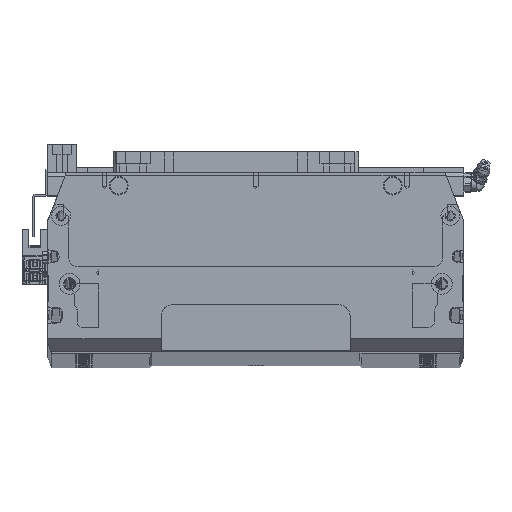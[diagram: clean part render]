
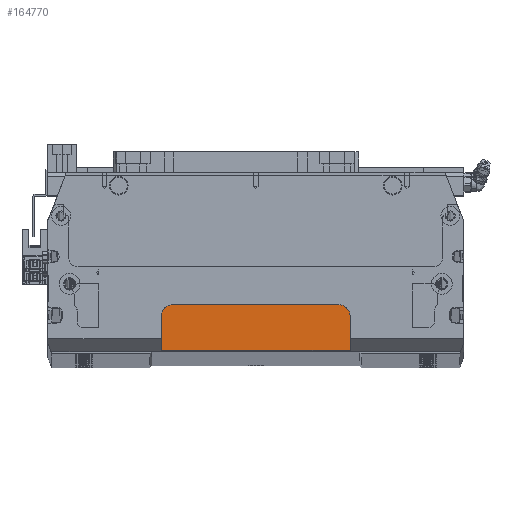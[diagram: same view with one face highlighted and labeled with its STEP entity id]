
A CAD part, top view. The second image highlights one B-rep face of the part: STEP entity #164770.
In plain terms, the highlighted planar face has unit normal (0, 0, 1) as drawn and (0, 1, 0) by its records, which use the part's own axes.
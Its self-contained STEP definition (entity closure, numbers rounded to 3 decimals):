
#2146 = ORIENTED_EDGE ( 'NONE', *, *, #136481, .F. ) ;
#13375 = DIRECTION ( 'NONE',  ( 0., 0., -1. ) ) ;
#14140 = VECTOR ( 'NONE', #219980, 1000. ) ;
#28821 = CIRCLE ( 'NONE', #53241, 6. ) ;
#35675 = DIRECTION ( 'NONE',  ( 0., 0., -1. ) ) ;
#36410 = VECTOR ( 'NONE', #479391, 1000. ) ;
#53241 = AXIS2_PLACEMENT_3D ( 'NONE', #382049, #306001, #304397 ) ;
#72353 = VERTEX_POINT ( 'NONE', #350753 ) ;
#83927 = VERTEX_POINT ( 'NONE', #233921 ) ;
#84607 = CARTESIAN_POINT ( 'NONE',  ( 50., 8., 58.25 ) ) ;
#86675 = AXIS2_PLACEMENT_3D ( 'NONE', #333388, #260564, #35675 ) ;
#87398 = VECTOR ( 'NONE', #13375, 1000. ) ;
#131513 = EDGE_CURVE ( 'NONE', #181459, #83927, #373092, .T. ) ;
#132100 = CARTESIAN_POINT ( 'NONE',  ( 50., 8., 39.25 ) ) ;
#136481 = EDGE_CURVE ( 'NONE', #72353, #83927, #372631, .T. ) ;
#148783 = DIRECTION ( 'NONE',  ( 0., -1., 0. ) ) ;
#153584 = CARTESIAN_POINT ( 'NONE',  ( 0., 8., 0. ) ) ;
#164770 = ADVANCED_FACE ( 'NONE', ( #355870 ), #265130, .F. ) ;
#166026 = VECTOR ( 'NONE', #185760, 1000. ) ;
#174291 = LINE ( 'NONE', #84607, #87398 ) ;
#176762 = ORIENTED_EDGE ( 'NONE', *, *, #257515, .T. ) ;
#181459 = VERTEX_POINT ( 'NONE', #243170 ) ;
#185760 = DIRECTION ( 'NONE',  ( -1., 0., 0. ) ) ;
#195212 = CIRCLE ( 'NONE', #86675, 6. ) ;
#219980 = DIRECTION ( 'NONE',  ( 0., 0., 1. ) ) ;
#222220 = EDGE_CURVE ( 'NONE', #282773, #181459, #28821, .T. ) ;
#226951 = AXIS2_PLACEMENT_3D ( 'NONE', #153584, #148783, #227869 ) ;
#227869 = DIRECTION ( 'NONE',  ( 0., 0., -1. ) ) ;
#233921 = CARTESIAN_POINT ( 'NONE',  ( -50., 8., 57.25 ) ) ;
#238511 = ORIENTED_EDGE ( 'NONE', *, *, #131513, .T. ) ;
#240009 = CARTESIAN_POINT ( 'NONE',  ( 44., 8., 33.25 ) ) ;
#243170 = CARTESIAN_POINT ( 'NONE',  ( -50., 8., 39.25 ) ) ;
#247379 = ORIENTED_EDGE ( 'NONE', *, *, #259744, .T. ) ;
#257515 = EDGE_CURVE ( 'NONE', #410481, #267379, #195212, .T. ) ;
#259744 = EDGE_CURVE ( 'NONE', #267379, #282773, #414875, .T. ) ;
#260564 = DIRECTION ( 'NONE',  ( 0., 1., 0. ) ) ;
#265130 = PLANE ( 'NONE',  #226951 ) ;
#267379 = VERTEX_POINT ( 'NONE', #240009 ) ;
#282773 = VERTEX_POINT ( 'NONE', #431571 ) ;
#296011 = CARTESIAN_POINT ( 'NONE',  ( -50., 8., 58.25 ) ) ;
#304397 = DIRECTION ( 'NONE',  ( 0., 0., -1. ) ) ;
#306001 = DIRECTION ( 'NONE',  ( 0., 1., 0. ) ) ;
#324155 = CARTESIAN_POINT ( 'NONE',  ( 110., 8., 57.25 ) ) ;
#333388 = CARTESIAN_POINT ( 'NONE',  ( 44., 8., 39.25 ) ) ;
#350753 = CARTESIAN_POINT ( 'NONE',  ( 50., 8., 57.25 ) ) ;
#351269 = EDGE_LOOP ( 'NONE', ( #390914, #176762, #247379, #360530, #238511, #2146 ) ) ;
#355870 = FACE_OUTER_BOUND ( 'NONE', #351269, .T. ) ;
#360530 = ORIENTED_EDGE ( 'NONE', *, *, #222220, .T. ) ;
#368630 = CARTESIAN_POINT ( 'NONE',  ( -50., 8., 33.25 ) ) ;
#371240 = EDGE_CURVE ( 'NONE', #72353, #410481, #174291, .T. ) ;
#372631 = LINE ( 'NONE', #324155, #36410 ) ;
#373092 = LINE ( 'NONE', #296011, #14140 ) ;
#382049 = CARTESIAN_POINT ( 'NONE',  ( -44., 8., 39.25 ) ) ;
#390914 = ORIENTED_EDGE ( 'NONE', *, *, #371240, .T. ) ;
#410481 = VERTEX_POINT ( 'NONE', #132100 ) ;
#414875 = LINE ( 'NONE', #368630, #166026 ) ;
#431571 = CARTESIAN_POINT ( 'NONE',  ( -44., 8., 33.25 ) ) ;
#479391 = DIRECTION ( 'NONE',  ( -1., 0., 0. ) ) ;
